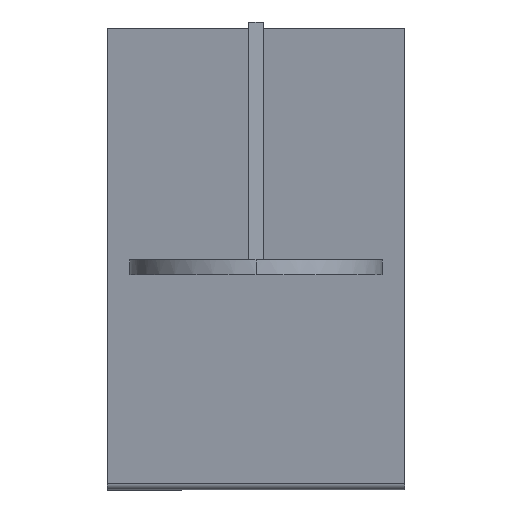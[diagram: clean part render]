
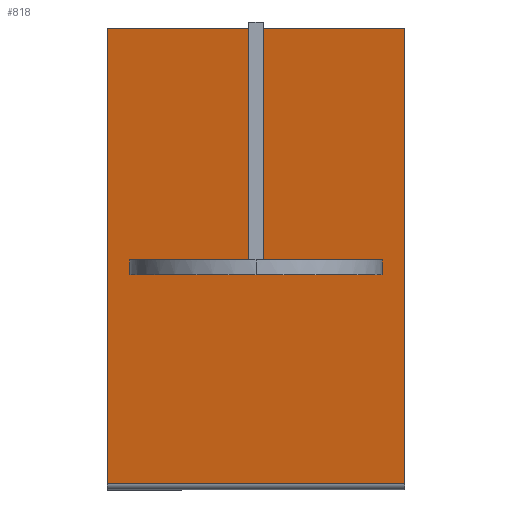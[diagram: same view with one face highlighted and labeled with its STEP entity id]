
A CAD part, left-side view. The second image highlights one B-rep face of the part: STEP entity #818.
In plain terms, the highlighted planar face has unit normal (-0.99, 0, -0.139).
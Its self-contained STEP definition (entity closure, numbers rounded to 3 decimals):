
#2 = CARTESIAN_POINT ( 'NONE',  ( 191.934, 68.55, 205.311 ) ) ;
#5 = ORIENTED_EDGE ( 'NONE', *, *, #608, .F. ) ;
#8 = EDGE_CURVE ( 'NONE', #720, #482, #153, .T. ) ;
#14 = AXIS2_PLACEMENT_3D ( 'NONE', #281, #636, #706 ) ;
#19 = LINE ( 'NONE', #174, #895 ) ;
#51 = VECTOR ( 'NONE', #648, 1000. ) ;
#106 = ORIENTED_EDGE ( 'NONE', *, *, #483, .T. ) ;
#120 = CARTESIAN_POINT ( 'NONE',  ( 133.999, 462.978, 617.541 ) ) ;
#127 = DIRECTION ( 'NONE',  ( -0.139, 0., 0.99 ) ) ;
#140 = CARTESIAN_POINT ( 'NONE',  ( 133.999, 221.678, 617.541 ) ) ;
#144 = VECTOR ( 'NONE', #645, 1000. ) ;
#153 = LINE ( 'NONE', #852, #840 ) ;
#165 = LINE ( 'NONE', #442, #569 ) ;
#169 = ORIENTED_EDGE ( 'NONE', *, *, #752, .F. ) ;
#174 = CARTESIAN_POINT ( 'NONE',  ( 243.252, -48.197, -159.838 ) ) ;
#180 = CARTESIAN_POINT ( 'NONE',  ( 133.999, 462.978, 617.541 ) ) ;
#187 = DIRECTION ( 'NONE',  ( -0.139, 0., 0.99 ) ) ;
#195 = CARTESIAN_POINT ( 'NONE',  ( 189.537, 221.678, 222.368 ) ) ;
#226 = DIRECTION ( 'NONE',  ( 0.139, 0., -0.99 ) ) ;
#232 = VECTOR ( 'NONE', #127, 1000. ) ;
#237 = CARTESIAN_POINT ( 'NONE',  ( 189.537, 65.809, 222.368 ) ) ;
#262 = ORIENTED_EDGE ( 'NONE', *, *, #464, .F. ) ;
#266 = VERTEX_POINT ( 'NONE', #373 ) ;
#270 = CARTESIAN_POINT ( 'NONE',  ( 193.107, 69.943, 196.968 ) ) ;
#271 = ORIENTED_EDGE ( 'NONE', *, *, #908, .T. ) ;
#281 = CARTESIAN_POINT ( 'NONE',  ( 245.02, -48.197, -172.414 ) ) ;
#299 = VECTOR ( 'NONE', #802, 1000. ) ;
#303 = ORIENTED_EDGE ( 'NONE', *, *, #532, .T. ) ;
#307 = CARTESIAN_POINT ( 'NONE',  ( 189.537, 352.148, 222.368 ) ) ;
#315 = VERTEX_POINT ( 'NONE', #195 ) ;
#327 = EDGE_CURVE ( 'NONE', #315, #715, #851, .T. ) ;
#339 = LINE ( 'NONE', #529, #559 ) ;
#357 = CARTESIAN_POINT ( 'NONE',  ( 133.999, -45.022, 617.541 ) ) ;
#365 = CARTESIAN_POINT ( 'NONE',  ( 133.999, 462.978, 617.541 ) ) ;
#367 = VECTOR ( 'NONE', #403, 1000. ) ;
#373 = CARTESIAN_POINT ( 'NONE',  ( 243.252, -45.022, -159.838 ) ) ;
#380 = VERTEX_POINT ( 'NONE', #557 ) ;
#382 = CARTESIAN_POINT ( 'NONE',  ( 133.999, 196.278, 617.541 ) ) ;
#387 =( BOUNDED_CURVE ( )  B_SPLINE_CURVE ( 3, ( #595, #513, #528, #307 ),
 .UNSPECIFIED., .F., .F. ) 
 B_SPLINE_CURVE_WITH_KNOTS ( ( 4, 4 ),
 ( 0.7, 0.725 ),
 .UNSPECIFIED. ) 
 CURVE ( )  GEOMETRIC_REPRESENTATION_ITEM ( )  RATIONAL_B_SPLINE_CURVE ( ( 1., 1., 1., 1. ) ) 
 REPRESENTATION_ITEM ( '' )  );
#394 = ORIENTED_EDGE ( 'NONE', *, *, #590, .F. ) ;
#403 = DIRECTION ( 'NONE',  ( 0., -1., 0. ) ) ;
#417 = FACE_OUTER_BOUND ( 'NONE', #654, .T. ) ;
#423 = CARTESIAN_POINT ( 'NONE',  ( 189.537, 65.809, 222.368 ) ) ;
#435 = VECTOR ( 'NONE', #187, 1000. ) ;
#438 = LINE ( 'NONE', #365, #51 ) ;
#442 = CARTESIAN_POINT ( 'NONE',  ( 245.02, -45.022, -172.414 ) ) ;
#454 = VERTEX_POINT ( 'NONE', #644 ) ;
#456 = ORIENTED_EDGE ( 'NONE', *, *, #867, .F. ) ;
#464 = EDGE_CURVE ( 'NONE', #743, #662, #438, .T. ) ;
#467 = LINE ( 'NONE', #744, #232 ) ;
#482 = VERTEX_POINT ( 'NONE', #563 ) ;
#483 = EDGE_CURVE ( 'NONE', #454, #266, #19, .T. ) ;
#492 = EDGE_CURVE ( 'NONE', #266, #783, #165, .T. ) ;
#513 = CARTESIAN_POINT ( 'NONE',  ( 191.934, 349.407, 205.311 ) ) ;
#528 = CARTESIAN_POINT ( 'NONE',  ( 190.744, 350.785, 213.778 ) ) ;
#529 = CARTESIAN_POINT ( 'NONE',  ( 189.537, -48.197, 222.368 ) ) ;
#532 = EDGE_CURVE ( 'NONE', #380, #715, #387, .T. ) ;
#540 = ORIENTED_EDGE ( 'NONE', *, *, #492, .T. ) ;
#545 = ORIENTED_EDGE ( 'NONE', *, *, #327, .F. ) ;
#557 = CARTESIAN_POINT ( 'NONE',  ( 193.107, 348.014, 196.968 ) ) ;
#559 = VECTOR ( 'NONE', #597, 1000. ) ;
#563 = CARTESIAN_POINT ( 'NONE',  ( 189.537, 196.278, 222.368 ) ) ;
#566 = DIRECTION ( 'NONE',  ( -0.139, 0., 0.99 ) ) ;
#569 = VECTOR ( 'NONE', #566, 1000. ) ;
#573 = CARTESIAN_POINT ( 'NONE',  ( 189.537, 352.148, 222.368 ) ) ;
#590 = EDGE_CURVE ( 'NONE', #454, #743, #467, .T. ) ;
#595 = CARTESIAN_POINT ( 'NONE',  ( 193.107, 348.014, 196.968 ) ) ;
#597 = DIRECTION ( 'NONE',  ( 0., 1., 0. ) ) ;
#608 = EDGE_CURVE ( 'NONE', #720, #783, #680, .T. ) ;
#612 = EDGE_CURVE ( 'NONE', #315, #662, #726, .T. ) ;
#636 = DIRECTION ( 'NONE',  ( 0.99, 0., 0.139 ) ) ;
#644 = CARTESIAN_POINT ( 'NONE',  ( 243.252, 462.978, -159.838 ) ) ;
#645 = DIRECTION ( 'NONE',  ( 0., 1., 0. ) ) ;
#648 = DIRECTION ( 'NONE',  ( 0., -1., 0. ) ) ;
#654 = EDGE_LOOP ( 'NONE', ( #169, #271, #456, #303, #545, #795, #262, #394, #106, #540, #5, #797 ) ) ;
#662 = VERTEX_POINT ( 'NONE', #140 ) ;
#670 =( BOUNDED_CURVE ( )  B_SPLINE_CURVE ( 3, ( #423, #770, #2, #766 ),
 .UNSPECIFIED., .F., .T. ) 
 B_SPLINE_CURVE_WITH_KNOTS ( ( 4, 4 ),
 ( 5.558, 5.583 ),
 .UNSPECIFIED. ) 
 CURVE ( )  GEOMETRIC_REPRESENTATION_ITEM ( )  RATIONAL_B_SPLINE_CURVE ( ( 1., 1., 1., 1. ) ) 
 REPRESENTATION_ITEM ( '' )  );
#672 = VERTEX_POINT ( 'NONE', #270 ) ;
#680 = LINE ( 'NONE', #180, #299 ) ;
#706 = DIRECTION ( 'NONE',  ( -0.139, 0., 0.99 ) ) ;
#715 = VERTEX_POINT ( 'NONE', #573 ) ;
#720 = VERTEX_POINT ( 'NONE', #382 ) ;
#726 = LINE ( 'NONE', #887, #435 ) ;
#727 = VERTEX_POINT ( 'NONE', #237 ) ;
#739 = CARTESIAN_POINT ( 'NONE',  ( 193.107, -10.097, 196.968 ) ) ;
#743 = VERTEX_POINT ( 'NONE', #120 ) ;
#744 = CARTESIAN_POINT ( 'NONE',  ( 245.02, 462.978, -172.414 ) ) ;
#752 = EDGE_CURVE ( 'NONE', #727, #482, #339, .T. ) ;
#757 = PLANE ( 'NONE',  #14 ) ;
#766 = CARTESIAN_POINT ( 'NONE',  ( 193.107, 69.943, 196.968 ) ) ;
#770 = CARTESIAN_POINT ( 'NONE',  ( 190.744, 67.172, 213.778 ) ) ;
#777 = DIRECTION ( 'NONE',  ( 0., -1., 0. ) ) ;
#783 = VERTEX_POINT ( 'NONE', #357 ) ;
#795 = ORIENTED_EDGE ( 'NONE', *, *, #612, .T. ) ;
#797 = ORIENTED_EDGE ( 'NONE', *, *, #8, .T. ) ;
#802 = DIRECTION ( 'NONE',  ( 0., -1., 0. ) ) ;
#818 = ADVANCED_FACE ( 'NONE', ( #417 ), #757, .F. ) ;
#840 = VECTOR ( 'NONE', #226, 1000. ) ;
#851 = LINE ( 'NONE', #854, #144 ) ;
#852 = CARTESIAN_POINT ( 'NONE',  ( 133.999, 196.278, 617.541 ) ) ;
#854 = CARTESIAN_POINT ( 'NONE',  ( 189.537, -48.197, 222.368 ) ) ;
#867 = EDGE_CURVE ( 'NONE', #380, #672, #897, .T. ) ;
#887 = CARTESIAN_POINT ( 'NONE',  ( 133.999, 221.678, 617.541 ) ) ;
#895 = VECTOR ( 'NONE', #777, 1000. ) ;
#897 = LINE ( 'NONE', #739, #367 ) ;
#908 = EDGE_CURVE ( 'NONE', #727, #672, #670, .T. ) ;
